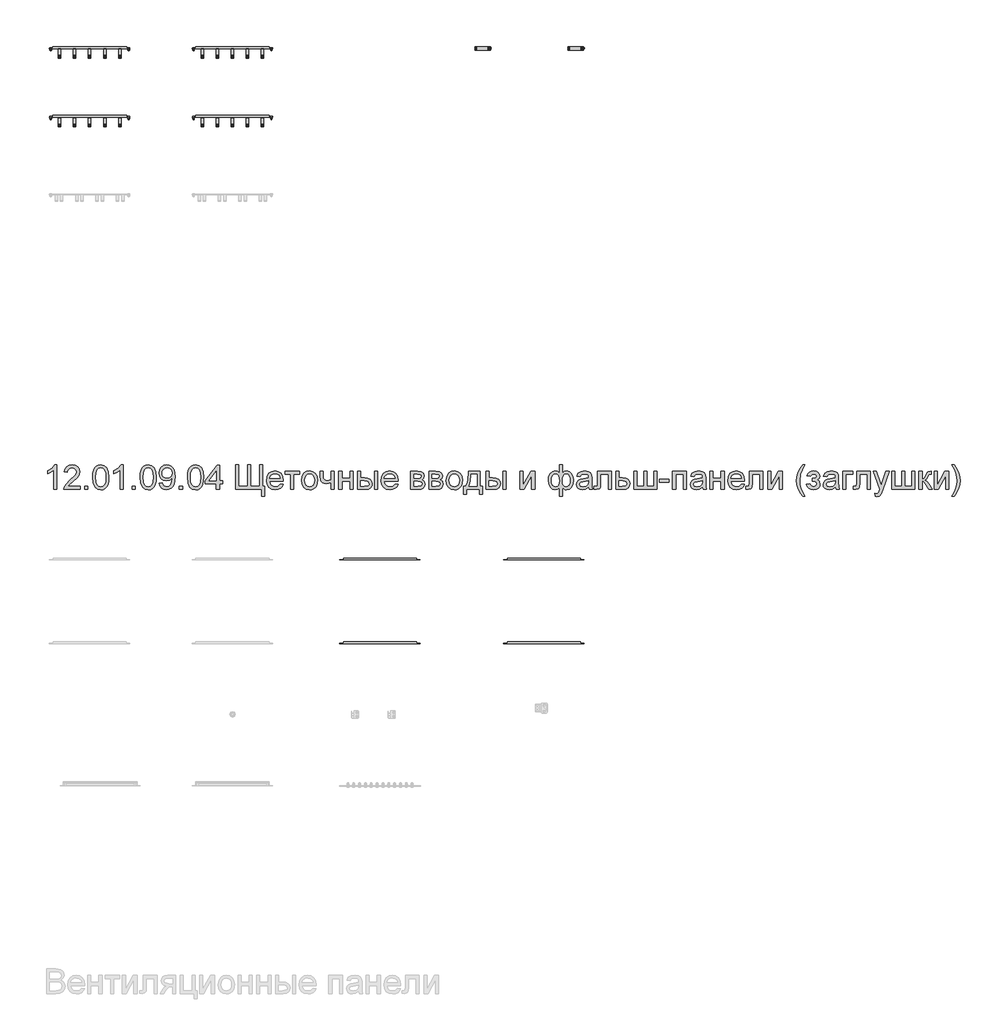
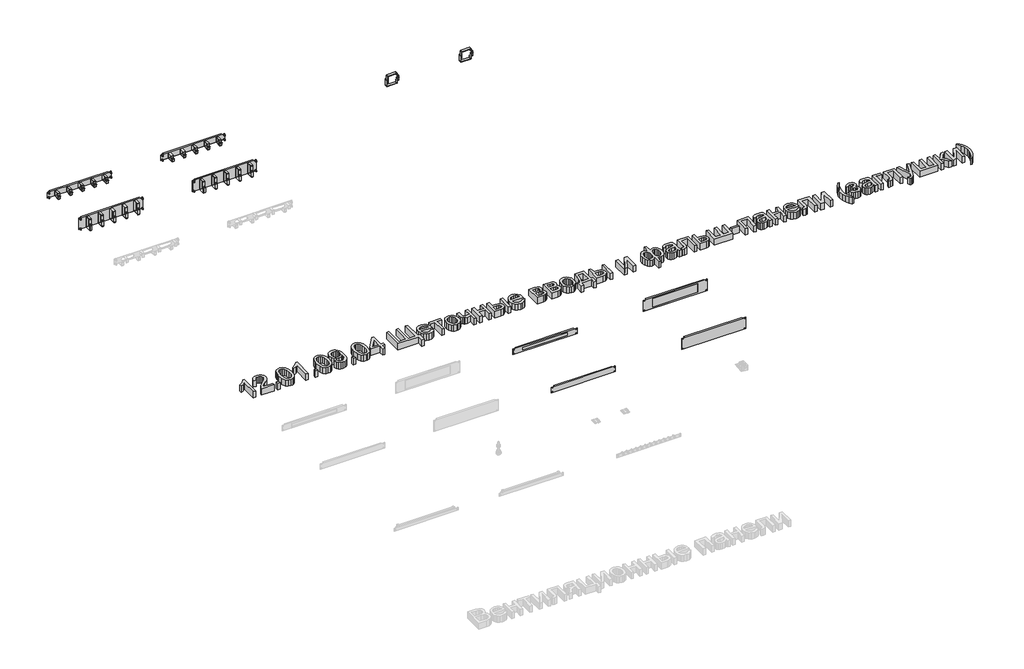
# One storey, part 2 of 9: 11 proxies.
"""IFC4 building model written with IfcOpenShell, lengths in millimetres."""

from ifc_helpers import new_model, si_unit, origin, origin_with_axes, place, context, project, spatial, polyline, outline, extrude, transform, mapped, element, save
from components import be05_01u_52b54abc, be05_02u_7d84ed24, co05_1m5r_8cccb76f, co05_1m5r_9e9421cd, co05_2m5r_de22c3af, co05_2m5r_7ec1da49, cr05_8080_1d3823d1, fp05_01u_f00bcd1a, fp05_02u_35c9f280

model = new_model("IFC4")

# Units and contexts
model_context = context("Model", 3, world=origin())
ifc_project = project(units=[si_unit("LENGTHUNIT", "METRE", prefix="MILLI")], contexts=[model_context])

# Site, building, storey
site = spatial("IfcSite", under=ifc_project)
building = spatial("IfcBuilding", under=site)
storey = spatial("IfcBuildingStorey", under=building, Name="Уровень 1", Elevation=0.0)

# Proxies
placement = place(None, origin())
element("IfcBuildingElementProxy", 1, Name="Надпись на модели 1", ObjectType="Надпись на модели 1", at=placement, inside=storey, context=model_context, shape_type="SweptSolid", body=[
    extrude(outline(polyline([(-45344.4287165, -42072.1712032), (-45362.8902549, -42072.1712032), (-45362.8902549, -41957.0750493), (-45380.3782357, -41969.532982), (-45399.8133319, -41978.8538955), (-45399.8133319, -41961.4019724), (-45372.7520338, -41944.1303378), (-45356.3277549, -41924.4788955), (-45344.4287165, -41924.4788955), (-45344.4287165, -42072.1712032)])), origin_with_axes(), (0.0, 0.0, 1.0), 50.0),
    extrude(outline(polyline([(-45205.967178, -42053.7096647), (-45205.967178, -42072.1712032), (-45302.8902549, -42072.1712032), (-45300.9070819, -42059.4428378), (-45289.6931395, -42039.845482), (-45266.5801588, -42018.4452416), (-45234.7051588, -41987.6880301), (-45228.7285963, -41977.0870686), (-45226.7364088, -41966.7745686), (-45228.615916, -41957.5302777), (-45234.2544376, -41949.845482), (-45242.9218054, -41944.666696), (-45253.8878511, -41942.9404339), (-45265.4037766, -41944.6261311), (-45274.3505915, -41949.6832224), (-45280.1243294, -41957.7150734), (-45282.1210242, -41968.3250493), (-45300.5825626, -41966.017357), (-45296.1069016, -41948.1597849), (-45286.4299184, -41935.1159147), (-45272.0564208, -41927.1381503), (-45253.4912165, -41924.4788955), (-45234.7907958, -41927.4356262), (-45220.4443415, -41936.3058186), (-45211.3172381, -41949.5570205), (-45208.2748703, -41965.6567801), (-45211.5561203, -41983.1627897), (-45222.4635722, -42001.2637512), (-45248.9118895, -42026.5582224), (-45270.1498703, -42044.3166359), (-45278.4791972, -42053.7096647), (-45205.967178, -42053.7096647)])), origin_with_axes(), (0.0, 0.0, 1.0), 50.0),
    extrude(outline(polyline([(-45178.2748703, -42072.1712032), (-45178.2748703, -42053.7096647), (-45159.8133319, -42053.7096647), (-45159.8133319, -42072.1712032), (-45178.2748703, -42072.1712032)])), origin_with_axes(), (0.0, 0.0, 1.0), 50.0),
    extrude(outline(polyline([(-45129.8133319, -41999.5149532), (-45128.4566612, -41975.8746287), (-45124.3866492, -41957.0209628), (-45117.6438607, -41942.665494), (-45108.2688607, -41932.5197609), (-45096.194041, -41926.4891118), (-45081.3517934, -41924.4788955), (-45059.7892934, -41929.2385109), (-45044.8974665, -41942.9584628), (-45036.2436203, -41964.8094243), (-45032.8902549, -41999.5149532), (-45034.233404, -42023.0200613), (-45038.2628511, -42041.8286551), (-45044.9650746, -42056.1976455), (-45054.326553, -42066.3839436), (-45066.428416, -42072.4551575), (-45081.3517934, -42074.4788955), (-45100.5344857, -42070.9632705), (-45115.1017934, -42060.4163955), (-45126.1354472, -42035.4374291), (-45129.8133319, -41999.5149532)]), holes=[polyline([(-45111.3517934, -41999.4788955), (-45109.1883319, -42028.5188594), (-45102.6979472, -42045.3262512), (-45093.0344857, -42053.3445806), (-45081.3517934, -42056.017357), (-45069.6691011, -42053.3355662), (-45060.0056395, -42045.2901936), (-45053.5152549, -42028.4737873), (-45051.3517934, -41999.4788955), (-45053.4431395, -41971.0924772), (-45059.717178, -41954.1543762), (-45069.3626107, -41945.7439195), (-45081.5681395, -41942.9404339), (-45093.1246299, -41945.4103859), (-45102.4094857, -41952.8202416), (-45109.1162165, -41970.8130301), (-45111.3517934, -41999.4788955)])]), origin_with_axes(), (0.0, 0.0, 1.0), 50.0),
    extrude(outline(polyline([(-44947.5056395, -42072.1712032), (-44965.967178, -42072.1712032), (-44965.967178, -41957.0750493), (-44983.4551588, -41969.532982), (-45002.8902549, -41978.8538955), (-45002.8902549, -41961.4019724), (-44975.8289569, -41944.1303378), (-44959.404678, -41924.4788955), (-44947.5056395, -41924.4788955), (-44947.5056395, -42072.1712032)])), origin_with_axes(), (0.0, 0.0, 1.0), 50.0),
    extrude(outline(polyline([(-44894.4287165, -42072.1712032), (-44894.4287165, -42053.7096647), (-44875.967178, -42053.7096647), (-44875.967178, -42072.1712032), (-44894.4287165, -42072.1712032)])), origin_with_axes(), (0.0, 0.0, 1.0), 50.0),
    extrude(outline(polyline([(-44845.967178, -41999.5149532), (-44844.6105073, -41975.8746287), (-44840.5404953, -41957.0209628), (-44833.7977069, -41942.665494), (-44824.4227069, -41932.5197609), (-44812.3478871, -41926.4891118), (-44797.5056395, -41924.4788955), (-44775.9431395, -41929.2385109), (-44761.0513126, -41942.9584628), (-44752.3974665, -41964.8094243), (-44749.0441011, -41999.5149532), (-44750.3872501, -42023.0200613), (-44754.4166972, -42041.8286551), (-44761.1189208, -42056.1976455), (-44770.4803992, -42066.3839436), (-44782.5822621, -42072.4551575), (-44797.5056395, -42074.4788955), (-44816.6883319, -42070.9632705), (-44831.2556395, -42060.4163955), (-44842.2892934, -42035.4374291), (-44845.967178, -41999.5149532)]), holes=[polyline([(-44827.5056395, -41999.4788955), (-44825.342178, -42028.5188594), (-44818.8517934, -42045.3262512), (-44809.1883319, -42053.3445806), (-44797.5056395, -42056.017357), (-44785.8229472, -42053.3355662), (-44776.1594857, -42045.2901936), (-44769.6691011, -42028.4737873), (-44767.5056395, -41999.4788955), (-44769.5969857, -41971.0924772), (-44775.8710242, -41954.1543762), (-44785.5164569, -41945.7439195), (-44797.7219857, -41942.9404339), (-44809.2784761, -41945.4103859), (-44818.5633319, -41952.8202416), (-44825.2700626, -41970.8130301), (-44827.5056395, -41999.4788955)])]), origin_with_axes(), (0.0, 0.0, 1.0), 50.0),
    extrude(outline(polyline([(-44730.5825626, -42035.2481262), (-44712.1210242, -42032.9404339), (-44708.9659761, -42043.4197008), (-44703.8277549, -42050.5546166), (-44688.1066011, -42056.017357), (-44673.1606876, -42052.501732), (-44663.0284761, -42043.1087032), (-44656.9888126, -42027.0630301), (-44654.3205434, -42005.6447609), (-44654.4287165, -42002.0389916), (-44669.1943415, -42016.0293762), (-44689.4407357, -42021.4019724), (-44706.2751708, -42018.1207224), (-44720.2880915, -42008.2769724), (-44729.7397141, -41993.0696407), (-44732.8902549, -41973.6976455), (-44729.5864689, -41953.6856262), (-44719.6751107, -41938.0005301), (-44704.787791, -41927.8593041), (-44686.5561203, -41924.4788955), (-44672.7865891, -41926.407982), (-44660.2520338, -41932.1952416), (-44649.7682597, -41941.5522128), (-44642.1510722, -41954.1904339), (-44637.5131516, -41971.6603859), (-44635.967178, -41995.5125493), (-44637.5086444, -42020.8025133), (-44642.1330434, -42040.3502897), (-44649.7998102, -42055.0392921), (-44660.4683799, -42065.7529339), (-44673.6790169, -42072.2974051), (-44688.9719857, -42074.4788955), (-44704.7562405, -42071.9052777), (-44717.3493895, -42064.1844243), (-44726.1564809, -42051.8031142), (-44730.5825626, -42035.2481262)]), holes=[polyline([(-44654.4287165, -41973.2649532), (-44656.420904, -41960.7529339), (-44662.3974665, -41951.1255301), (-44671.6733078, -41944.986708), (-44683.5633319, -41942.9404339), (-44695.8950626, -41945.1444604), (-44705.7748703, -41951.7565397), (-44712.2652549, -41961.8752296), (-44714.4287165, -41974.5990878), (-44712.3824424, -41986.0068402), (-44706.2436203, -41995.0618282), (-44696.607202, -42000.9707825), (-44684.0681395, -42002.9404339), (-44672.2727669, -42000.9707825), (-44662.7760722, -41995.0618282), (-44656.5155554, -41985.6733065), (-44654.4287165, -41973.2649532)])]), origin_with_axes(), (0.0, 0.0, 1.0), 50.0),
    extrude(outline(polyline([(-44610.5825626, -42072.1712032), (-44610.5825626, -42053.7096647), (-44592.1210242, -42053.7096647), (-44592.1210242, -42072.1712032), (-44610.5825626, -42072.1712032)])), origin_with_axes(), (0.0, 0.0, 1.0), 50.0),
    extrude(outline(polyline([(-44562.1210242, -41999.5149532), (-44560.7643535, -41975.8746287), (-44556.6943415, -41957.0209628), (-44549.951553, -41942.665494), (-44540.576553, -41932.5197609), (-44528.5017333, -41926.4891118), (-44513.6594857, -41924.4788955), (-44492.0969857, -41929.2385109), (-44477.2051588, -41942.9584628), (-44468.5513126, -41964.8094243), (-44465.1979472, -41999.5149532), (-44466.5410963, -42023.0200613), (-44470.5705434, -42041.8286551), (-44477.2727669, -42056.1976455), (-44486.6342453, -42066.3839436), (-44498.7361083, -42072.4551575), (-44513.6594857, -42074.4788955), (-44532.842178, -42070.9632705), (-44547.4094857, -42060.4163955), (-44558.4431395, -42035.4374291), (-44562.1210242, -41999.5149532)]), holes=[polyline([(-44543.6594857, -41999.4788955), (-44541.4960242, -42028.5188594), (-44535.0056395, -42045.3262512), (-44525.342178, -42053.3445806), (-44513.6594857, -42056.017357), (-44501.9767934, -42053.3355662), (-44492.3133319, -42045.2901936), (-44485.8229472, -42028.4737873), (-44483.6594857, -41999.4788955), (-44485.7508319, -41971.0924772), (-44492.0248703, -41954.1543762), (-44501.670303, -41945.7439195), (-44513.8758319, -41942.9404339), (-44525.4323222, -41945.4103859), (-44534.717178, -41952.8202416), (-44541.4239088, -41970.8130301), (-44543.6594857, -41999.4788955)])]), origin_with_axes(), (0.0, 0.0, 1.0), 50.0),
    extrude(outline(polyline([(-44389.0441011, -42072.1712032), (-44389.0441011, -42037.5558186), (-44455.967178, -42037.5558186), (-44455.967178, -42019.0942801), (-44384.4287165, -41926.7865878), (-44370.5825626, -41926.7865878), (-44370.5825626, -42019.0942801), (-44352.1210242, -42019.0942801), (-44352.1210242, -42037.5558186), (-44370.5825626, -42037.5558186), (-44370.5825626, -42072.1712032), (-44389.0441011, -42072.1712032)]), holes=[polyline([(-44389.0441011, -42019.0942801), (-44389.0441011, -41962.0510109), (-44433.2508319, -42019.0942801), (-44389.0441011, -42019.0942801)])]), origin_with_axes(), (0.0, 0.0, 1.0), 50.0),
    extrude(outline(polyline([(-44273.6594857, -41924.4788955), (-44255.1979472, -41924.4788955), (-44255.1979472, -42053.7096647), (-44202.1210242, -42053.7096647), (-44202.1210242, -41924.4788955), (-44183.6594857, -41924.4788955), (-44183.6594857, -42053.7096647), (-44130.5825626, -42053.7096647), (-44130.5825626, -41924.4788955), (-44112.1210242, -41924.4788955), (-44112.1210242, -42053.7096647), (-44098.2748703, -42053.7096647), (-44098.2748703, -42113.7096647), (-44116.7364088, -42113.7096647), (-44116.7364088, -42072.1712032), (-44273.6594857, -42072.1712032), (-44273.6594857, -41924.4788955)])), origin_with_axes(), (0.0, 0.0, 1.0), 50.0),
    extrude(outline(polyline([(-44006.1835242, -42039.8635109), (-43988.0825626, -42042.1712032), (-43994.6044977, -42055.8100253), (-44005.0116492, -42066.0053378), (-44019.0696419, -42072.3605061), (-44036.5441011, -42074.4788955), (-44058.2057597, -42070.8235469), (-44074.873428, -42059.8575012), (-44085.5014328, -42042.2928979), (-44089.0441011, -42018.8418762), (-44085.4653751, -41994.6020926), (-44074.7291972, -41976.4740878), (-44058.2868895, -41965.1700012), (-44037.5897742, -41961.4019724), (-44017.53719, -41965.1609868), (-44001.514053, -41976.4380301), (-43991.0077429, -41994.5299772), (-43987.5056395, -42018.7337032), (-43987.6138126, -42023.7096647), (-44070.5825626, -42023.7096647), (-44067.3869496, -42037.5287753), (-44059.9635722, -42047.6880301), (-44049.2499304, -42053.9350253), (-44036.1835242, -42056.017357), (-44018.0825626, -42052.1591839), (-44006.1835242, -42039.8635109)]), holes=[polyline([(-44070.5825626, -42005.2481262), (-44005.967178, -42005.2481262), (-44008.4641732, -41995.4945205), (-44013.3590049, -41988.517357), (-44024.1222261, -41982.0269724), (-44037.6618895, -41979.8635109), (-44050.1063006, -41981.5897729), (-44060.3962645, -41986.7685589), (-44067.5492093, -41994.8409748), (-44070.5825626, -42005.2481262)])]), origin_with_axes(), (0.0, 0.0, 1.0), 50.0),
    extrude(outline(polyline([(-43978.2748703, -41963.7096647), (-43890.5825626, -41963.7096647), (-43890.5825626, -41982.1712032), (-43925.1979472, -41982.1712032), (-43925.1979472, -42072.1712032), (-43943.6594857, -42072.1712032), (-43943.6594857, -41982.1712032), (-43978.2748703, -41982.1712032), (-43978.2748703, -41963.7096647)])), origin_with_axes(), (0.0, 0.0, 1.0), 50.0),
    extrude(outline(polyline([(-43879.0441011, -42017.9404339), (-43875.0507117, -41991.7895926), (-43863.0705434, -41973.4091839), (-43848.2688607, -41964.4037753), (-43830.5465049, -41961.4019724), (-43811.1519737, -41965.057321), (-43795.6606876, -41976.0233666), (-43785.50594, -41993.4347248), (-43782.1210242, -42016.4260109), (-43783.6174184, -42035.0768522), (-43788.1066011, -42049.2745686), (-43795.4578631, -42059.9070806), (-43805.5404953, -42067.8623089), (-43817.5161564, -42072.8247488), (-43830.5465049, -42074.4788955), (-43850.1754112, -42070.8370686), (-43865.6486684, -42059.9115878), (-43875.6952429, -42042.1351455), (-43879.0441011, -42017.9404339)]), holes=[polyline([(-43860.5825626, -42017.9043762), (-43858.4461444, -42034.6126094), (-43852.0368895, -42046.5161551), (-43842.3914569, -42053.6420565), (-43830.5465049, -42056.017357), (-43818.7556395, -42053.6285349), (-43809.1282357, -42046.4620686), (-43802.7189809, -42034.4007705), (-43800.5825626, -42017.3274532), (-43802.7325025, -42001.1059988), (-43809.1823222, -41989.3647128), (-43818.8232477, -41982.2388113), (-43830.5465049, -41979.8635109), (-43842.3914569, -41982.2297969), (-43852.0368895, -41989.3286551), (-43858.4461444, -42001.2051575), (-43860.5825626, -42017.9043762)])]), origin_with_axes(), (0.0, 0.0, 1.0), 50.0),
    extrude(outline(polyline([(-43768.2748703, -41963.7096647), (-43749.8133319, -41963.7096647), (-43749.8133319, -41984.5149532), (-43748.3169376, -42004.0221647), (-43741.123428, -42014.5870686), (-43726.8445819, -42019.0942801), (-43701.3517934, -42013.5053378), (-43701.3517934, -41963.7096647), (-43682.8902549, -41963.7096647), (-43682.8902549, -42072.1712032), (-43701.3517934, -42072.1712032), (-43701.3517934, -42031.2096647), (-43731.7844857, -42037.5558186), (-43742.9488487, -42035.9016719), (-43752.7159761, -42030.939232), (-43760.3286564, -42023.5789556), (-43765.029678, -42014.7312993), (-43768.2748703, -41993.6375493), (-43768.2748703, -41963.7096647)])), origin_with_axes(), (0.0, 0.0, 1.0), 50.0),
    extrude(outline(polyline([(-43655.1979472, -41963.7096647), (-43636.7364088, -41963.7096647), (-43636.7364088, -42005.2481262), (-43588.2748703, -42005.2481262), (-43588.2748703, -41963.7096647), (-43569.8133319, -41963.7096647), (-43569.8133319, -42072.1712032), (-43588.2748703, -42072.1712032), (-43588.2748703, -42023.7096647), (-43636.7364088, -42023.7096647), (-43636.7364088, -42072.1712032), (-43655.1979472, -42072.1712032), (-43655.1979472, -41963.7096647)])), origin_with_axes(), (0.0, 0.0, 1.0), 50.0),
    extrude(outline(polyline([(-43440.5825626, -41963.7096647), (-43422.1210242, -41963.7096647), (-43422.1210242, -42072.1712032), (-43440.5825626, -42072.1712032), (-43440.5825626, -41963.7096647)])), origin_with_axes(), (0.0, 0.0, 1.0), 50.0),
    extrude(outline(polyline([(-43542.1210242, -41963.7096647), (-43523.6594857, -41963.7096647), (-43523.6594857, -42002.9404339), (-43500.8349665, -42002.9404339), (-43481.1069016, -42005.2526335), (-43466.4900145, -42012.189232), (-43457.444041, -42023.1913354), (-43454.4287165, -42037.7000493), (-43456.9572621, -42050.9106863), (-43464.5428992, -42062.0570205), (-43477.6814208, -42069.6426575), (-43496.8686203, -42072.1712032), (-43542.1210242, -42072.1712032), (-43542.1210242, -41963.7096647)]), holes=[polyline([(-43523.6594857, -42053.7096647), (-43504.6931395, -42053.7096647), (-43480.2099665, -42049.8334628), (-43474.7201828, -42044.8710229), (-43472.8902549, -42037.736107), (-43478.3169376, -42026.3779339), (-43487.0203631, -42022.6459628), (-43502.2772742, -42021.4019724), (-43523.6594857, -42021.4019724), (-43523.6594857, -42053.7096647)])]), origin_with_axes(), (0.0, 0.0, 1.0), 50.0),
    extrude(outline(polyline([(-43318.4912165, -42039.8635109), (-43300.3902549, -42042.1712032), (-43306.91219, -42055.8100253), (-43317.3193415, -42066.0053378), (-43331.3773343, -42072.3605061), (-43348.8517934, -42074.4788955), (-43370.513452, -42070.8235469), (-43387.1811203, -42059.8575012), (-43397.8091251, -42042.2928979), (-43401.3517934, -42018.8418762), (-43397.7730674, -41994.6020926), (-43387.0368895, -41976.4740878), (-43370.5945819, -41965.1700012), (-43349.8974665, -41961.4019724), (-43329.8448823, -41965.1609868), (-43313.8217453, -41976.4380301), (-43303.3154352, -41994.5299772), (-43299.8133319, -42018.7337032), (-43299.9215049, -42023.7096647), (-43382.8902549, -42023.7096647), (-43379.6946419, -42037.5287753), (-43372.2712645, -42047.6880301), (-43361.5576227, -42053.9350253), (-43348.4912165, -42056.017357), (-43330.3902549, -42052.1591839), (-43318.4912165, -42039.8635109)]), holes=[polyline([(-43382.8902549, -42005.2481262), (-43318.2748703, -42005.2481262), (-43320.7718655, -41995.4945205), (-43325.6666972, -41988.517357), (-43336.4299184, -41982.0269724), (-43349.9695819, -41979.8635109), (-43362.4139929, -41981.5897729), (-43372.7039569, -41986.7685589), (-43379.8569016, -41994.8409748), (-43382.8902549, -42005.2481262)])]), origin_with_axes(), (0.0, 0.0, 1.0), 50.0),
    extrude(outline(polyline([(-43223.6594857, -41963.7096647), (-43182.9864088, -41963.7096647), (-43160.6847261, -41966.1796166), (-43148.1366492, -41975.2300974), (-43142.8902549, -41991.0053378), (-43146.0633319, -42003.8238474), (-43155.6186203, -42012.9644724), (-43143.2147742, -42022.970482), (-43138.2748703, -42040.3683186), (-43141.4028751, -42054.439833), (-43148.8397742, -42064.3466839), (-43160.6126107, -42070.2150734), (-43176.748428, -42072.1712032), (-43223.6594857, -42072.1712032), (-43223.6594857, -41963.7096647)]), holes=[polyline([(-43205.1979472, -42005.2481262), (-43186.9527549, -42005.2481262), (-43171.8986684, -42004.3106262), (-43164.5789569, -42000.5606262), (-43161.3517934, -41993.7817801), (-43162.7670578, -41988.2739676), (-43167.0128511, -41984.7312993), (-43186.3758319, -41982.1712032), (-43205.1979472, -41982.1712032), (-43205.1979472, -42005.2481262)]), polyline([(-43205.1979472, -42053.7096647), (-43182.5537165, -42053.7096647), (-43162.4695819, -42050.3743282), (-43158.3139328, -42045.8265517), (-43156.7364088, -42038.8538955), (-43159.8914569, -42029.9656743), (-43168.1126107, -42024.7913955), (-43184.3566011, -42023.7096647), (-43205.1979472, -42023.7096647), (-43205.1979472, -42053.7096647)])]), origin_with_axes(), (0.0, 0.0, 1.0), 50.0),
    extrude(outline(polyline([(-43115.1979472, -41963.7096647), (-43074.5248703, -41963.7096647), (-43052.2231876, -41966.1796166), (-43039.6751107, -41975.2300974), (-43034.4287165, -41991.0053378), (-43037.6017934, -42003.8238474), (-43047.1570819, -42012.9644724), (-43034.7532357, -42022.970482), (-43029.8133319, -42040.3683186), (-43032.9413367, -42054.439833), (-43040.3782357, -42064.3466839), (-43052.1510722, -42070.2150734), (-43068.2868895, -42072.1712032), (-43115.1979472, -42072.1712032), (-43115.1979472, -41963.7096647)]), holes=[polyline([(-43096.7364088, -42005.2481262), (-43078.4912165, -42005.2481262), (-43063.4371299, -42004.3106262), (-43056.1174184, -42000.5606262), (-43052.8902549, -41993.7817801), (-43054.3055194, -41988.2739676), (-43058.5513126, -41984.7312993), (-43077.9142934, -41982.1712032), (-43096.7364088, -41982.1712032), (-43096.7364088, -42005.2481262)]), polyline([(-43096.7364088, -42053.7096647), (-43074.092178, -42053.7096647), (-43054.0080434, -42050.3743282), (-43049.8523944, -42045.8265517), (-43048.2748703, -42038.8538955), (-43051.4299184, -42029.9656743), (-43059.6510722, -42024.7913955), (-43075.8950626, -42023.7096647), (-43096.7364088, -42023.7096647), (-43096.7364088, -42053.7096647)])]), origin_with_axes(), (0.0, 0.0, 1.0), 50.0),
    extrude(outline(polyline([(-43011.3517934, -42017.9404339), (-43007.358404, -41991.7895926), (-42995.3782357, -41973.4091839), (-42980.576553, -41964.4037753), (-42962.8541972, -41961.4019724), (-42943.459666, -41965.057321), (-42927.9683799, -41976.0233666), (-42917.8136323, -41993.4347248), (-42914.4287165, -42016.4260109), (-42915.9251107, -42035.0768522), (-42920.4142934, -42049.2745686), (-42927.7655554, -42059.9070806), (-42937.8481876, -42067.8623089), (-42949.8238487, -42072.8247488), (-42962.8541972, -42074.4788955), (-42982.4831035, -42070.8370686), (-42997.9563607, -42059.9115878), (-43008.0029352, -42042.1351455), (-43011.3517934, -42017.9404339)]), holes=[polyline([(-42992.8902549, -42017.9043762), (-42990.7538367, -42034.6126094), (-42984.3445819, -42046.5161551), (-42974.6991492, -42053.6420565), (-42962.8541972, -42056.017357), (-42951.0633319, -42053.6285349), (-42941.435928, -42046.4620686), (-42935.0266732, -42034.4007705), (-42932.8902549, -42017.3274532), (-42935.0401948, -42001.1059988), (-42941.4900145, -41989.3647128), (-42951.13094, -41982.2388113), (-42962.8541972, -41979.8635109), (-42974.6991492, -41982.2297969), (-42984.3445819, -41989.3286551), (-42990.7538367, -42001.2051575), (-42992.8902549, -42017.9043762)])]), origin_with_axes(), (0.0, 0.0, 1.0), 50.0),
    extrude(outline(polyline([(-42877.5056395, -41963.7096647), (-42808.2748703, -41963.7096647), (-42808.2748703, -42053.7096647), (-42794.4287165, -42053.7096647), (-42794.4287165, -42102.1712032), (-42812.8902549, -42102.1712032), (-42812.8902549, -42072.1712032), (-42889.0441011, -42072.1712032), (-42889.0441011, -42102.1712032), (-42907.5056395, -42102.1712032), (-42907.5056395, -42053.7096647), (-42895.967178, -42053.7096647), (-42887.5792573, -42038.5519123), (-42881.7063607, -42018.4993282), (-42877.5056395, -41963.7096647)]), holes=[polyline([(-42861.3517934, -41982.1712032), (-42865.6787165, -42024.2325012), (-42875.1979472, -42053.7096647), (-42826.7364088, -42053.7096647), (-42826.7364088, -41982.1712032), (-42861.3517934, -41982.1712032)])]), origin_with_axes(), (0.0, 0.0, 1.0), 50.0),
    extrude(outline(polyline([(-42773.6594857, -41963.7096647), (-42755.1979472, -41963.7096647), (-42755.1979472, -42002.9404339), (-42732.373428, -42002.9404339), (-42712.6453631, -42005.2526335), (-42698.0284761, -42012.189232), (-42688.9825025, -42023.1913354), (-42685.967178, -42037.7000493), (-42688.4957237, -42050.9106863), (-42696.0813607, -42062.0570205), (-42709.2198823, -42069.6426575), (-42728.4070819, -42072.1712032), (-42773.6594857, -42072.1712032), (-42773.6594857, -41963.7096647)]), holes=[polyline([(-42755.1979472, -42053.7096647), (-42736.2316011, -42053.7096647), (-42711.748428, -42049.8334628), (-42706.2586444, -42044.8710229), (-42704.4287165, -42037.736107), (-42709.8553992, -42026.3779339), (-42718.5588246, -42022.6459628), (-42733.8157357, -42021.4019724), (-42755.1979472, -42021.4019724), (-42755.1979472, -42053.7096647)])]), origin_with_axes(), (0.0, 0.0, 1.0), 50.0),
    extrude(outline(polyline([(-42672.1210242, -41963.7096647), (-42653.6594857, -41963.7096647), (-42653.6594857, -42072.1712032), (-42672.1210242, -42072.1712032), (-42672.1210242, -41963.7096647)])), origin_with_axes(), (0.0, 0.0, 1.0), 50.0),
    extrude(outline(polyline([(-42568.2748703, -41963.7096647), (-42549.8133319, -41963.7096647), (-42549.8133319, -42046.4260109), (-42504.4527549, -41963.7096647), (-42480.5825626, -41963.7096647), (-42480.5825626, -42072.1712032), (-42499.0441011, -42072.1712032), (-42499.0441011, -41989.9596647), (-42544.1162165, -42072.1712032), (-42568.2748703, -42072.1712032), (-42568.2748703, -41963.7096647)])), origin_with_axes(), (0.0, 0.0, 1.0), 50.0),
    extrude(outline(polyline([(-42332.8902549, -41924.4788955), (-42314.4287165, -41924.4788955), (-42314.4287165, -41974.1303378), (-42302.6919376, -41964.5570205), (-42288.935928, -41961.4019724), (-42272.7775746, -41965.4133907), (-42260.3602069, -41977.4476455), (-42252.4500506, -41995.5666359), (-42249.8133319, -42017.8322609), (-42252.6528751, -42040.7784748), (-42261.1715049, -42058.8478859), (-42273.9088847, -42070.5711431), (-42289.404678, -42074.4788955), (-42300.6907357, -42072.6760109), (-42314.4287165, -42062.8322609), (-42314.4287165, -42113.7096647), (-42332.8902549, -42113.7096647), (-42332.8902549, -42062.8322609), (-42344.6811203, -42071.5582224), (-42358.6354472, -42074.4788955), (-42374.1041972, -42070.7469243), (-42387.4816011, -42059.5510109), (-42396.7303992, -42041.4049772), (-42399.8133319, -42016.8226455), (-42397.0233679, -41995.1790157), (-42388.6534761, -41977.3394724), (-42375.569041, -41965.3863474), (-42358.6354472, -41961.4019724), (-42344.3385722, -41964.5570205), (-42332.8902549, -41974.1303378), (-42332.8902549, -41924.4788955)]), holes=[polyline([(-42314.5368895, -42018.2649532), (-42312.9999304, -42036.9563594), (-42308.389053, -42048.3190397), (-42301.4614689, -42054.0927777), (-42292.9743895, -42056.017357), (-42283.4867093, -42053.651071), (-42275.5044376, -42046.5522128), (-42270.0822621, -42034.4683787), (-42268.2748703, -42017.1471647), (-42269.9425386, -42000.7228859), (-42274.9455434, -41989.0942801), (-42282.5627309, -41982.1712032), (-42292.0729472, -41979.8635109), (-42301.8671179, -41982.2658546), (-42308.8938607, -41989.4728859), (-42313.1261323, -42001.4755902), (-42314.5368895, -42018.2649532)]), polyline([(-42381.3517934, -42016.4260109), (-42379.5038367, -42034.5359868), (-42373.9599665, -42046.7505301), (-42365.6757117, -42053.7006503), (-42355.6066011, -42056.017357), (-42345.5870698, -42053.7141719), (-42338.4611684, -42046.8046166), (-42334.2018535, -42035.2886912), (-42332.7820819, -42019.1663955), (-42334.2739689, -42001.9713835), (-42338.7496299, -41989.689232), (-42346.2361083, -41982.3199412), (-42356.7604472, -41979.8635109), (-42366.6402549, -41982.2613474), (-42374.5008319, -41989.454857), (-42379.639053, -42000.9933186), (-42381.3517934, -42016.4260109)])]), origin_with_axes(), (0.0, 0.0, 1.0), 50.0),
    extrude(outline(polyline([(-42157.5056395, -42058.3250493), (-42175.4082838, -42070.8370686), (-42195.185928, -42074.4788955), (-42210.6141131, -42072.2883907), (-42221.9948222, -42065.7168762), (-42229.0125506, -42055.7379099), (-42231.3517934, -42043.3250493), (-42227.8181395, -42028.7216839), (-42218.5332838, -42018.1207224), (-42205.6066011, -42012.0630301), (-42189.6330434, -42009.2865878), (-42157.6138126, -42002.9404339), (-42157.5056395, -41998.829857), (-42158.7766732, -41990.5906743), (-42162.5897742, -41985.2000493), (-42171.1174184, -41981.1976455), (-42182.998428, -41979.8635109), (-42201.6763126, -41983.4151936), (-42210.5825626, -41996.017357), (-42229.0441011, -41993.7096647), (-42221.0573222, -41975.6808186), (-42204.9755915, -41965.1159147), (-42180.6186203, -41961.4019724), (-42158.2448222, -41964.6832224), (-42145.6066011, -41972.9224051), (-42139.9455434, -41985.4524532), (-42139.0441011, -42001.6062993), (-42139.0441011, -42024.5750493), (-42138.1066011, -42056.6483666), (-42134.4287165, -42072.1712032), (-42152.8902549, -42072.1712032), (-42157.5056395, -42058.3250493)]), holes=[polyline([(-42157.5056395, -42021.4019724), (-42187.2892934, -42027.0630301), (-42203.1727069, -42030.0558186), (-42210.3662165, -42034.923607), (-42212.8902549, -42042.0269724), (-42207.3914569, -42052.0149532), (-42191.2556395, -42056.017357), (-42172.5777549, -42051.6002897), (-42160.5344857, -42040.9091839), (-42157.6138126, -42026.6303378), (-42157.5056395, -42021.4019724)])]), origin_with_axes(), (0.0, 0.0, 1.0), 50.0),
    extrude(outline(polyline([(-42104.4287165, -41963.7096647), (-42021.3517934, -41963.7096647), (-42021.3517934, -42072.0630301), (-42039.8133319, -42072.0630301), (-42039.8133319, -41982.1712032), (-42085.967178, -41982.1712032), (-42085.967178, -42033.9139916), (-42087.2111684, -42057.7841839), (-42094.0441011, -42067.8623089), (-42110.1979472, -42072.1712032), (-42125.1979472, -42071.2337032), (-42125.1979472, -42053.7096647), (-42116.9407357, -42053.7096647), (-42108.5933799, -42052.5738474), (-42105.2580434, -42048.9680782), (-42104.4287165, -42032.8683186), (-42104.4287165, -41963.7096647)])), origin_with_axes(), (0.0, 0.0, 1.0), 50.0),
    extrude(outline(polyline([(-41993.6594857, -41963.7096647), (-41975.1979472, -41963.7096647), (-41975.1979472, -42002.9404339), (-41953.9239088, -42002.9404339), (-41935.4803992, -42005.2526335), (-41921.8325626, -42012.189232), (-41913.3950626, -42023.1913354), (-41910.5825626, -42037.7000493), (-41912.9758919, -42050.9106863), (-41920.1558799, -42062.0570205), (-41932.600291, -42069.6426575), (-41950.7868895, -42072.1712032), (-41993.6594857, -42072.1712032), (-41993.6594857, -41963.7096647)]), holes=[polyline([(-41975.1979472, -42053.7096647), (-41957.9623703, -42053.7096647), (-41935.6967453, -42049.8334628), (-41930.7072621, -42044.8710229), (-41929.0441011, -42037.736107), (-41933.9659761, -42026.3779339), (-41941.8761323, -42022.6459628), (-41955.7628511, -42021.4019724), (-41975.1979472, -42021.4019724), (-41975.1979472, -42053.7096647)])]), origin_with_axes(), (0.0, 0.0, 1.0), 50.0),
    extrude(outline(polyline([(-41887.5056395, -41963.7096647), (-41869.0441011, -41963.7096647), (-41869.0441011, -42053.7096647), (-41827.5056395, -42053.7096647), (-41827.5056395, -41963.7096647), (-41809.0441011, -41963.7096647), (-41809.0441011, -42053.7096647), (-41767.5056395, -42053.7096647), (-41767.5056395, -41963.7096647), (-41749.0441011, -41963.7096647), (-41749.0441011, -42072.1712032), (-41887.5056395, -42072.1712032), (-41887.5056395, -41963.7096647)])), origin_with_axes(), (0.0, 0.0, 1.0), 50.0),
    extrude(outline(polyline([(-41732.8902549, -42028.3250493), (-41732.8902549, -42009.8635109), (-41675.1979472, -42009.8635109), (-41675.1979472, -42028.3250493), (-41732.8902549, -42028.3250493)])), origin_with_axes(), (0.0, 0.0, 1.0), 50.0),
    extrude(outline(polyline([(-41654.4287165, -41963.7096647), (-41571.3517934, -41963.7096647), (-41571.3517934, -42072.1712032), (-41589.8133319, -42072.1712032), (-41589.8133319, -41982.1712032), (-41635.967178, -41982.1712032), (-41635.967178, -42072.1712032), (-41654.4287165, -42072.1712032), (-41654.4287165, -41963.7096647)])), origin_with_axes(), (0.0, 0.0, 1.0), 50.0),
    extrude(outline(polyline([(-41474.4287165, -42058.3250493), (-41492.3313607, -42070.8370686), (-41512.1090049, -42074.4788955), (-41527.53719, -42072.2883907), (-41538.9178992, -42065.7168762), (-41545.9356275, -42055.7379099), (-41548.2748703, -42043.3250493), (-41544.7412165, -42028.7216839), (-41535.4563607, -42018.1207224), (-41522.529678, -42012.0630301), (-41506.5561203, -42009.2865878), (-41474.5368895, -42002.9404339), (-41474.4287165, -41998.829857), (-41475.6997501, -41990.5906743), (-41479.5128511, -41985.2000493), (-41488.0404953, -41981.1976455), (-41499.9215049, -41979.8635109), (-41518.5993895, -41983.4151936), (-41527.5056395, -41996.017357), (-41545.967178, -41993.7096647), (-41537.9803992, -41975.6808186), (-41521.8986684, -41965.1159147), (-41497.5416972, -41961.4019724), (-41475.1678992, -41964.6832224), (-41462.529678, -41972.9224051), (-41456.8686203, -41985.4524532), (-41455.967178, -42001.6062993), (-41455.967178, -42024.5750493), (-41455.029678, -42056.6483666), (-41451.3517934, -42072.1712032), (-41469.8133319, -42072.1712032), (-41474.4287165, -42058.3250493)]), holes=[polyline([(-41474.4287165, -42021.4019724), (-41504.2123703, -42027.0630301), (-41520.0957838, -42030.0558186), (-41527.2892934, -42034.923607), (-41529.8133319, -42042.0269724), (-41524.3145338, -42052.0149532), (-41508.1787165, -42056.017357), (-41489.5008319, -42051.6002897), (-41477.4575626, -42040.9091839), (-41474.5368895, -42026.6303378), (-41474.4287165, -42021.4019724)])]), origin_with_axes(), (0.0, 0.0, 1.0), 50.0),
    extrude(outline(polyline([(-41430.5825626, -41963.7096647), (-41412.1210242, -41963.7096647), (-41412.1210242, -42005.2481262), (-41363.6594857, -42005.2481262), (-41363.6594857, -41963.7096647), (-41345.1979472, -41963.7096647), (-41345.1979472, -42072.1712032), (-41363.6594857, -42072.1712032), (-41363.6594857, -42023.7096647), (-41412.1210242, -42023.7096647), (-41412.1210242, -42072.1712032), (-41430.5825626, -42072.1712032), (-41430.5825626, -41963.7096647)])), origin_with_axes(), (0.0, 0.0, 1.0), 50.0),
    extrude(outline(polyline([(-41241.5681395, -42039.8635109), (-41223.467178, -42042.1712032), (-41229.9891131, -42055.8100253), (-41240.3962645, -42066.0053378), (-41254.4542573, -42072.3605061), (-41271.9287165, -42074.4788955), (-41293.5903751, -42070.8235469), (-41310.2580434, -42059.8575012), (-41320.8860482, -42042.2928979), (-41324.4287165, -42018.8418762), (-41320.8499905, -41994.6020926), (-41310.1138126, -41976.4740878), (-41293.6715049, -41965.1700012), (-41272.9743895, -41961.4019724), (-41252.9218054, -41965.1609868), (-41236.8986684, -41976.4380301), (-41226.3923583, -41994.5299772), (-41222.8902549, -42018.7337032), (-41222.998428, -42023.7096647), (-41305.967178, -42023.7096647), (-41302.771565, -42037.5287753), (-41295.3481876, -42047.6880301), (-41284.6345458, -42053.9350253), (-41271.5681395, -42056.017357), (-41253.467178, -42052.1591839), (-41241.5681395, -42039.8635109)]), holes=[polyline([(-41305.967178, -42005.2481262), (-41241.3517934, -42005.2481262), (-41243.8487886, -41995.4945205), (-41248.7436203, -41988.517357), (-41259.5068415, -41982.0269724), (-41273.0465049, -41979.8635109), (-41285.490916, -41981.5897729), (-41295.7808799, -41986.7685589), (-41302.9338246, -41994.8409748), (-41305.967178, -42005.2481262)])]), origin_with_axes(), (0.0, 0.0, 1.0), 50.0),
    extrude(outline(polyline([(-41195.1979472, -41963.7096647), (-41112.1210242, -41963.7096647), (-41112.1210242, -42072.0630301), (-41130.5825626, -42072.0630301), (-41130.5825626, -41982.1712032), (-41176.7364088, -41982.1712032), (-41176.7364088, -42033.9139916), (-41177.9803992, -42057.7841839), (-41184.8133319, -42067.8623089), (-41200.967178, -42072.1712032), (-41215.967178, -42071.2337032), (-41215.967178, -42053.7096647), (-41207.7099665, -42053.7096647), (-41199.3626107, -42052.5738474), (-41196.0272742, -42048.9680782), (-41195.1979472, -42032.8683186), (-41195.1979472, -41963.7096647)])), origin_with_axes(), (0.0, 0.0, 1.0), 50.0),
    extrude(outline(polyline([(-41084.4287165, -41963.7096647), (-41065.967178, -41963.7096647), (-41065.967178, -42046.4260109), (-41020.6066011, -41963.7096647), (-40996.7364088, -41963.7096647), (-40996.7364088, -42072.1712032), (-41015.1979472, -42072.1712032), (-41015.1979472, -41989.9596647), (-41060.2700626, -42072.1712032), (-41084.4287165, -42072.1712032), (-41084.4287165, -41963.7096647)])), origin_with_axes(), (0.0, 0.0, 1.0), 50.0),
    extrude(outline(polyline([(-40874.4287165, -42113.7096647), (-40888.7346059, -42093.6345445), (-40900.6426588, -42070.4043762), (-40908.6745097, -42045.1459628), (-40911.3517934, -42018.986107), (-40909.3505915, -41996.0444003), (-40903.3469857, -41974.0942801), (-40891.4299184, -41949.2325012), (-40874.4287165, -41924.4788955), (-40860.5825626, -41924.4788955), (-40877.8541972, -41953.7216839), (-40888.2388126, -41982.0630301), (-40892.8902549, -42019.0942801), (-40890.8710242, -42042.7616479), (-40884.8133319, -42066.4200012), (-40874.717178, -42090.0693402), (-40860.5825626, -42113.7096647), (-40874.4287165, -42113.7096647)])), origin_with_axes(), (0.0, 0.0, 1.0), 50.0),
    extrude(outline(polyline([(-40816.7364088, -42023.7096647), (-40816.7364088, -42005.2481262), (-40802.1691011, -42004.5269724), (-40794.8133319, -42000.6868282), (-40791.3517934, -41992.6639916), (-40795.9852069, -41983.3430782), (-40807.9383319, -41979.8635109), (-40820.2880915, -41983.3250493), (-40828.2748703, -41993.7096647), (-40849.0441011, -41991.4019724), (-40843.5362886, -41978.2769724), (-40835.1618895, -41968.9019724), (-40823.920904, -41963.2769724), (-40809.8133319, -41961.4019724), (-40794.3806395, -41963.6871287), (-40782.6979472, -41970.5425974), (-40775.342178, -41980.5711431), (-40772.8902549, -41992.3755301), (-40776.3788367, -42003.8418762), (-40786.8445819, -42012.7120686), (-40774.639053, -42024.2144724), (-40770.5825626, -42040.7649532), (-40773.1561804, -42054.354196), (-40780.8770338, -42065.1219243), (-40793.2222862, -42072.1396527), (-40809.6691011, -42074.4788955), (-40825.7553391, -42072.3154339), (-40838.0645338, -42065.8250493), (-40846.5966852, -42055.0077416), (-40851.3517934, -42039.8635109), (-40830.5825626, -42037.5558186), (-40822.2532357, -42051.1856262), (-40807.9022742, -42056.017357), (-40794.4166972, -42051.3839436), (-40789.0441011, -42039.5389916), (-40792.3794376, -42029.8394724), (-40799.482803, -42024.6471647), (-40813.1306395, -42023.6014916), (-40816.7364088, -42023.7096647)])), origin_with_axes(), (0.0, 0.0, 1.0), 50.0),
    extrude(outline(polyline([(-40678.2748703, -42058.3250493), (-40696.1775145, -42070.8370686), (-40715.9551588, -42074.4788955), (-40731.3833439, -42072.2883907), (-40742.764053, -42065.7168762), (-40749.7817814, -42055.7379099), (-40752.1210242, -42043.3250493), (-40748.5873703, -42028.7216839), (-40739.3025145, -42018.1207224), (-40726.3758319, -42012.0630301), (-40710.4022742, -42009.2865878), (-40678.3830434, -42002.9404339), (-40678.2748703, -41998.829857), (-40679.545904, -41990.5906743), (-40683.3590049, -41985.2000493), (-40691.8866492, -41981.1976455), (-40703.7676588, -41979.8635109), (-40722.4455434, -41983.4151936), (-40731.3517934, -41996.017357), (-40749.8133319, -41993.7096647), (-40741.826553, -41975.6808186), (-40725.7448222, -41965.1159147), (-40701.3878511, -41961.4019724), (-40679.014053, -41964.6832224), (-40666.3758319, -41972.9224051), (-40660.7147742, -41985.4524532), (-40659.8133319, -42001.6062993), (-40659.8133319, -42024.5750493), (-40658.8758319, -42056.6483666), (-40655.1979472, -42072.1712032), (-40673.6594857, -42072.1712032), (-40678.2748703, -42058.3250493)]), holes=[polyline([(-40678.2748703, -42021.4019724), (-40708.0585242, -42027.0630301), (-40723.9419376, -42030.0558186), (-40731.1354472, -42034.923607), (-40733.6594857, -42042.0269724), (-40728.1606876, -42052.0149532), (-40712.0248703, -42056.017357), (-40693.3469857, -42051.6002897), (-40681.3037165, -42040.9091839), (-40678.3830434, -42026.6303378), (-40678.2748703, -42021.4019724)])]), origin_with_axes(), (0.0, 0.0, 1.0), 50.0),
    extrude(outline(polyline([(-40634.4287165, -41963.7096647), (-40574.4287165, -41963.7096647), (-40574.4287165, -41982.1712032), (-40615.967178, -41982.1712032), (-40615.967178, -42072.1712032), (-40634.4287165, -42072.1712032), (-40634.4287165, -41963.7096647)])), origin_with_axes(), (0.0, 0.0, 1.0), 50.0),
    extrude(outline(polyline([(-40551.3517934, -41963.7096647), (-40468.2748703, -41963.7096647), (-40468.2748703, -42072.0630301), (-40486.7364088, -42072.0630301), (-40486.7364088, -41982.1712032), (-40532.8902549, -41982.1712032), (-40532.8902549, -42033.9139916), (-40534.1342453, -42057.7841839), (-40540.967178, -42067.8623089), (-40557.1210242, -42072.1712032), (-40572.1210242, -42071.2337032), (-40572.1210242, -42053.7096647), (-40563.8638126, -42053.7096647), (-40555.5164569, -42052.5738474), (-40552.1811203, -42048.9680782), (-40551.3517934, -42032.8683186), (-40551.3517934, -41963.7096647)])), origin_with_axes(), (0.0, 0.0, 1.0), 50.0),
    extrude(outline(polyline([(-40440.5825626, -42113.7096647), (-40442.8902549, -42095.9332224), (-40433.5152549, -42097.5558186), (-40424.7532357, -42095.5185589), (-40419.3806395, -42089.8394724), (-40414.3325626, -42076.2457224), (-40412.8902549, -42071.7745686), (-40452.1210242, -41963.7096647), (-40432.6498703, -41963.7096647), (-40411.8445819, -42023.9260109), (-40404.5969857, -42048.0125493), (-40397.3493895, -42026.7385109), (-40375.967178, -41963.7096647), (-40356.6402549, -41963.7096647), (-40394.3926588, -42074.767357), (-40404.2003511, -42098.8538955), (-40414.9094857, -42111.8707224), (-40429.2965049, -42116.017357), (-40440.5825626, -42113.7096647)])), origin_with_axes(), (0.0, 0.0, 1.0), 50.0),
    extrude(outline(polyline([(-40341.3517934, -41963.7096647), (-40322.8902549, -41963.7096647), (-40322.8902549, -42053.7096647), (-40281.3517934, -42053.7096647), (-40281.3517934, -41963.7096647), (-40262.8902549, -41963.7096647), (-40262.8902549, -42053.7096647), (-40221.3517934, -42053.7096647), (-40221.3517934, -41963.7096647), (-40202.8902549, -41963.7096647), (-40202.8902549, -42072.1712032), (-40341.3517934, -42072.1712032), (-40341.3517934, -41963.7096647)])), origin_with_axes(), (0.0, 0.0, 1.0), 50.0),
    extrude(outline(polyline([(-40177.5056395, -41963.7096647), (-40159.0441011, -41963.7096647), (-40159.0441011, -42009.8635109), (-40146.6763126, -42006.5462032), (-40136.5441011, -41987.2192801), (-40128.1246299, -41970.5425974), (-40120.6967453, -41965.1159147), (-40107.1931395, -41963.7096647), (-40103.6594857, -41963.7096647), (-40103.6594857, -41982.2793762), (-40108.6354472, -41982.1712032), (-40117.6498703, -41984.1183186), (-40123.9960242, -41996.2697609), (-40131.4419376, -42009.4127897), (-40141.8806395, -42015.8490878), (-40130.2340049, -42023.033583), (-40118.8037165, -42038.1687993), (-40099.0441011, -42072.1712032), (-40120.029678, -42072.1712032), (-40139.3926588, -42038.8899532), (-40149.1282357, -42024.8094243), (-40159.0441011, -42021.4019724), (-40159.0441011, -42072.1712032), (-40177.5056395, -42072.1712032), (-40177.5056395, -41963.7096647)])), origin_with_axes(), (0.0, 0.0, 1.0), 50.0),
    extrude(outline(polyline([(-40087.5056395, -41963.7096647), (-40069.0441011, -41963.7096647), (-40069.0441011, -42046.4260109), (-40023.6835242, -41963.7096647), (-39999.8133319, -41963.7096647), (-39999.8133319, -42072.1712032), (-40018.2748703, -42072.1712032), (-40018.2748703, -41989.9596647), (-40063.3469857, -42072.1712032), (-40087.5056395, -42072.1712032), (-40087.5056395, -41963.7096647)])), origin_with_axes(), (0.0, 0.0, 1.0), 50.0),
    extrude(outline(polyline([(-39967.5056395, -42113.7096647), (-39981.3517934, -42113.7096647), (-39967.217178, -42090.0693402), (-39957.1210242, -42066.4200012), (-39951.0633319, -42042.7616479), (-39949.0441011, -42019.0942801), (-39953.6955434, -41982.3875493), (-39963.9719857, -41954.0101455), (-39981.3517934, -41924.4788955), (-39967.5056395, -41924.4788955), (-39950.5044376, -41949.2325012), (-39938.5873703, -41974.0942801), (-39932.5837645, -41996.0444003), (-39930.5825626, -42018.986107), (-39933.2733679, -42045.1459628), (-39941.3457838, -42070.4043762), (-39953.2673583, -42093.6345445), (-39967.5056395, -42113.7096647)])), origin_with_axes(), (0.0, 0.0, 1.0), 50.0),
])
be05_01u_shape = be05_01u_52b54abc(model_context)
element("IfcBuildingElementProxy", 2, Name="Щеточный ввод : BE35-01U", ObjectType="Щеточный ввод : BE35-01U", at=placement, inside=storey, context=model_context, shape_type="MappedRepresentation", body=[
    mapped(be05_01u_shape, transform((-43407.8729167, -42492.9938691, 0.0), x_axis=(1.0, 0.0, 0.0), y_axis=(0.0, 1.0, 0.0), z_axis=(0.0, 0.0, 1.0))),
])
be05_02u_shape = be05_02u_7d84ed24(model_context)
element("IfcBuildingElementProxy", 3, Name="Щеточный ввод : BE35-02U", ObjectType="Щеточный ввод : BE35-02U", at=placement, inside=storey, context=model_context, shape_type="MappedRepresentation", body=[
    mapped(be05_02u_shape, transform((-42425.8403871, -42492.9938691, 0.0), x_axis=(1.0, 0.0, 0.0), y_axis=(0.0, 1.0, 0.0), z_axis=(0.0, 0.0, 1.0))),
])
co05_1m5r_shape = co05_1m5r_8cccb76f(model_context)
co05_1m5r_2_shape = co05_1m5r_9e9421cd(model_context)
element("IfcBuildingElementProxy", 4, Name="Кабельный организатор_1M5R : CO05-1M5R", ObjectType="Кабельный организатор_1M5R : CO05-1M5R", at=placement, inside=storey, context=model_context, shape_type="MappedRepresentation", body=[
    mapped(co05_1m5r_shape, transform((-45148.3068058, -39429.9618873, 0.0), x_axis=(1.0, 0.0, 0.0), y_axis=(0.0, 1.0, 0.0), z_axis=(0.0, 0.0, 1.0))),
    mapped(co05_1m5r_2_shape, transform((-45148.3068058, -39429.9618873, 0.0), x_axis=(1.0, 0.0, 0.0), y_axis=(0.0, 1.0, 0.0), z_axis=(0.0, 0.0, 1.0))),
])
co05_2m5r_shape = co05_2m5r_de22c3af(model_context)
co05_2m5r_2_shape = co05_2m5r_7ec1da49(model_context)
element("IfcBuildingElementProxy", 5, Name="Кабельный организатор_2M5R : CO05-2M5R", ObjectType="Кабельный организатор_2M5R : CO05-2M5R", at=placement, inside=storey, context=model_context, shape_type="MappedRepresentation", body=[
    mapped(co05_2m5r_shape, transform((-45148.3068058, -39841.4432403, 0.0), x_axis=(1.0, 0.0, 0.0), y_axis=(0.0, 1.0, 0.0), z_axis=(0.0, 0.0, 1.0))),
    mapped(co05_2m5r_2_shape, transform((-45148.3068058, -39841.4432403, 0.0), x_axis=(1.0, 0.0, 0.0), y_axis=(0.0, 1.0, 0.0), z_axis=(0.0, 0.0, 1.0))),
])
element("IfcBuildingElementProxy", 6, Name="Кабельный организатор_1M5R : CO35-1M5R", ObjectType="Кабельный организатор_1M5R : CO35-1M5R", at=placement, inside=storey, context=model_context, shape_type="MappedRepresentation", body=[
    mapped(co05_1m5r_shape, transform((-44292.6745028, -39429.9618873, 0.0), x_axis=(1.0, 0.0, 0.0), y_axis=(0.0, 1.0, 0.0), z_axis=(0.0, 0.0, 1.0))),
    mapped(co05_1m5r_2_shape, transform((-44292.6745028, -39429.9618873, 0.0), x_axis=(1.0, 0.0, 0.0), y_axis=(0.0, 1.0, 0.0), z_axis=(0.0, 0.0, 1.0))),
])
element("IfcBuildingElementProxy", 7, Name="Кабельный организатор_2M5R : CO35-2M5R", ObjectType="Кабельный организатор_2M5R : CO35-2M5R", at=placement, inside=storey, context=model_context, shape_type="MappedRepresentation", body=[
    mapped(co05_2m5r_shape, transform((-44292.6745028, -39841.4432403, 0.0), x_axis=(1.0, 0.0, 0.0), y_axis=(0.0, 1.0, 0.0), z_axis=(0.0, 0.0, 1.0))),
    mapped(co05_2m5r_2_shape, transform((-44292.6745028, -39841.4432403, 0.0), x_axis=(1.0, 0.0, 0.0), y_axis=(0.0, 1.0, 0.0), z_axis=(0.0, 0.0, 1.0))),
])
cr05_8080_shape = cr05_8080_1d3823d1(model_context)
element("IfcBuildingElementProxy", 8, Name="Кабельное кольцо : CR05-8080", ObjectType="Кабельное кольцо : CR05-8080", at=placement, inside=storey, context=model_context, shape_type="MappedRepresentation", body=[
    mapped(cr05_8080_shape, transform((-42745.8403871, -39429.9618873, 0.0), x_axis=(1.0, 0.0, 0.0), y_axis=(0.0, 1.0, 0.0), z_axis=(0.0, 0.0, 1.0))),
])
element("IfcBuildingElementProxy", 9, Name="Кабельное кольцо : CR35-8080", ObjectType="Кабельное кольцо : CR35-8080", at=placement, inside=storey, context=model_context, shape_type="MappedRepresentation", body=[
    mapped(cr05_8080_shape, transform((-42188.3759584, -39429.9618873, 0.0), x_axis=(1.0, 0.0, 0.0), y_axis=(0.0, 1.0, 0.0), z_axis=(0.0, 0.0, 1.0))),
])
fp05_01u_shape = fp05_01u_f00bcd1a(model_context)
element("IfcBuildingElementProxy", 10, Name="Фальш-панель : FP35-01U", ObjectType="Фальш-панель : FP35-01U", at=placement, inside=storey, context=model_context, shape_type="MappedRepresentation", body=[
    mapped(fp05_01u_shape, transform((-43407.8729167, -42994.4867681, 0.0), x_axis=(1.0, 0.0, 0.0), y_axis=(0.0, 1.0, 0.0), z_axis=(0.0, 0.0, 1.0))),
])
fp05_02u_shape = fp05_02u_35c9f280(model_context)
element("IfcBuildingElementProxy", 11, Name="Фальш-панель : FP35-02U", ObjectType="Фальш-панель : FP35-02U", at=placement, inside=storey, context=model_context, shape_type="MappedRepresentation", body=[
    mapped(fp05_02u_shape, transform((-42425.8403871, -42994.4867681, 0.0), x_axis=(1.0, 0.0, 0.0), y_axis=(0.0, 1.0, 0.0), z_axis=(0.0, 0.0, 1.0))),
])

save(model, "model.ifc")
